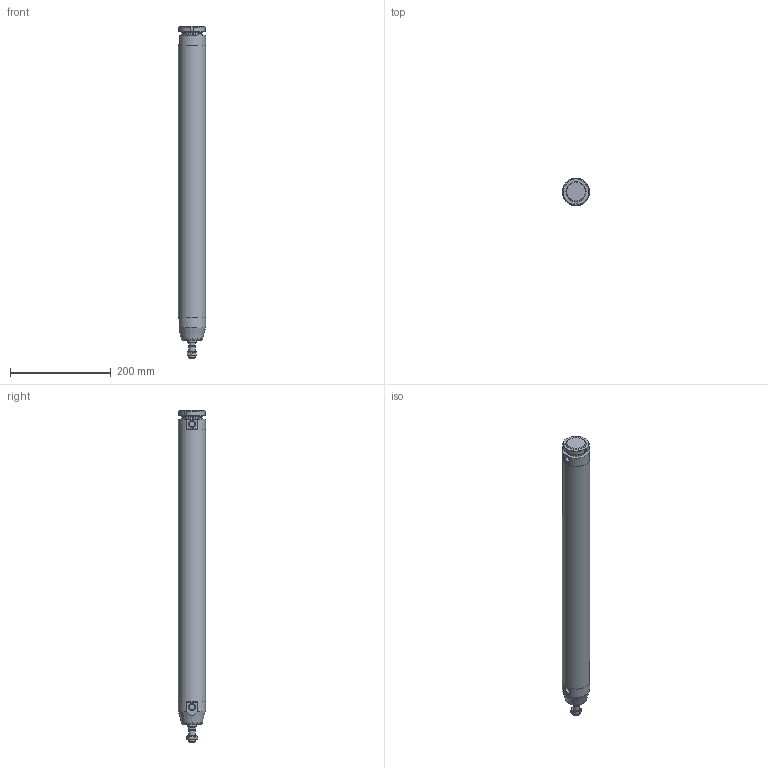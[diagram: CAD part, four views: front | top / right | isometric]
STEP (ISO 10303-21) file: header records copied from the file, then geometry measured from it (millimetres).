
FILE_DESCRIPTION(/* description */ (''),/* implementation_level */ '2;1');
FILE_NAME(/* name */ 'I:\Area Tecnica\Documenti\A-Manieri\_Inventor\12X\12X#B_###_####_#_#\12XAB_050_0500_#_#.stp',/* time_stamp */ '2015-04-27T16:23:52+02:00',/* author */ ('maniean1'),/* organization */ ('Pneumax S.p.A.'),/* preprocessor_version */ 'ST-DEVELOPER v15.2',/* originating_system */ 'Autodesk Inventor 2014',/* authorisation */ '');
FILE_SCHEMA (('AUTOMOTIVE_DESIGN { 1 0 10303 214 3 1 1 }'));
Length unit declared in the file: millimetre
Products named in the file (7): C1250_619-0500; 12X50_613; S12X50_0500; 12X_50_11; 12X50_620; G12X_050_05; 12XAB_050_0500_#_#
Bounding box: 54 x 54 x 660 mm (x, y, z)
Volume: 530731.6 mm3; surface area: 245561 mm2
Topology: 6 solids, 6 shells, 80 faces, 175 edges, 112 vertices
Faces by surface type: plane 40, cylinder 20, cone 19, torus 1
Full cylindrical faces by diameter (mm): 10.2 x1, 11.4 x2, 12 x2, 14 x1, 15.6 x1, 16 x1, 38.2 x1, 40 x3, 50 x2, 54 x3
Entity records: 2134 total; most frequent: CARTESIAN_POINT 399, DIRECTION 359, ORIENTED_EDGE 282, AXIS2_PLACEMENT_3D 154, EDGE_CURVE 141, EDGE_LOOP 122, VERTEX_POINT 107, ADVANCED_FACE 80
